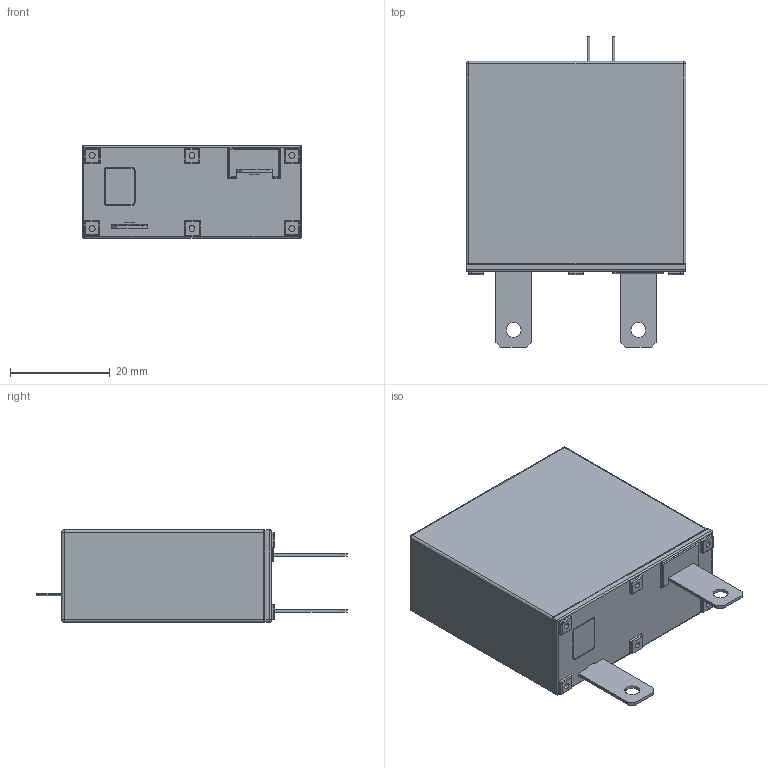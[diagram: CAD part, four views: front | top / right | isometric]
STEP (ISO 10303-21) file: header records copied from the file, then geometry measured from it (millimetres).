
FILE_DESCRIPTION((''),'2;1');
FILE_NAME('TFMOV40K-18-IT-20200620','2020-08-12T',('SET-01114'),(''),'PRO/ENGINEER BY PARAMETRIC TECHNOLOGY CORPORATION, 2012310','PRO/ENGINEER BY PARAMETRIC TECHNOLOGY CORPORATION, 2012310','');
FILE_SCHEMA(('CONFIG_CONTROL_DESIGN','SHAPE_APPEARANCE_LAYERS_GROUPS'));
Length unit declared in the file: millimetre
Products named in the file (1): TFMOV40K-18-IT-20200620
Bounding box: 44 x 62.2 x 18.5 mm (x, y, z)
Volume: 34275.4 mm3; surface area: 7618.4 mm2
Topology: 1 solids, 2 shells, 213 faces, 502 edges, 310 vertices
Faces by surface type: plane 109, cylinder 90, torus 6, sphere 6, bspline 2
Entity records: 7994 total; most frequent: CARTESIAN_POINT 1319, ORIENTED_EDGE 1004, DIRECTION 998, PRESENTATION_STYLE_ASSIGNMENT 521, STYLED_ITEM 503, CURVE_STYLE 502, EDGE_CURVE 502, VECTOR 348
